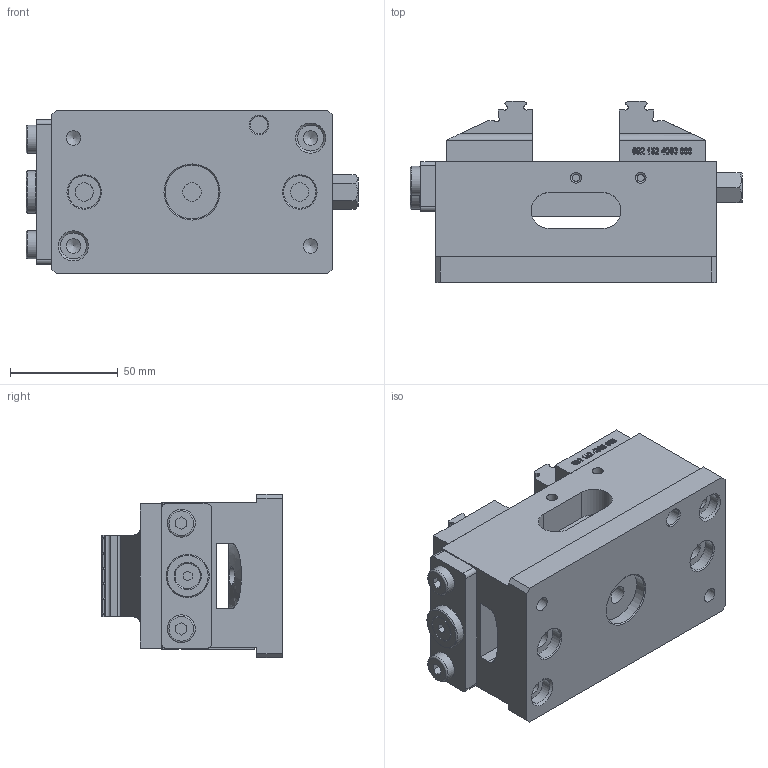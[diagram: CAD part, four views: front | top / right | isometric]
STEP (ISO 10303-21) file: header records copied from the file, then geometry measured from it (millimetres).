
FILE_DESCRIPTION (( 'STEP AP214' ), '1' );
FILE_NAME ('3D-6921528052055.STEP', '2023-12-01T10:37:53', ( '' ), ( '' ), 'SwSTEP 2.0', 'SolidWorks 2021', '' );
FILE_SCHEMA (( 'AUTOMOTIVE_DESIGN' ));
Length unit declared in the file: millimetre
Products named in the file (4): 3D-692152805x055; 3D-6921528052055; 3D-6921524050000; 3D-6921524060000
Assembly tree (3 placements, depth 2):
  3D-6921528052055
    3D-692152805x055
    3D-6921524050000
    3D-6921524060000
Bounding box: 154 x 84 x 76 mm (x, y, z)
Volume: 546228.3 mm3; surface area: 82333.9 mm2
Topology: 3 solids, 3 shells, 1363 faces, 3628 edges, 2409 vertices
Faces by surface type: plane 730, bspline 517, cylinder 92, cone 22, torus 2
Full cylindrical faces by diameter (mm): 4.2 x4, 5 x2, 6.8 x4, 8 x1, 8.5 x3, 11.6 x1, 12 x2, 13 x2, 15 x2, 17.5 x1, 20 x1, 25 x1
Entity records: 68404 total; most frequent: CARTESIAN_POINT 38193, ORIENTED_EDGE 7122, DIRECTION 4228, EDGE_CURVE 3561, VERTEX_POINT 2390, VECTOR 2314, LINE 2314, EDGE_LOOP 1561
